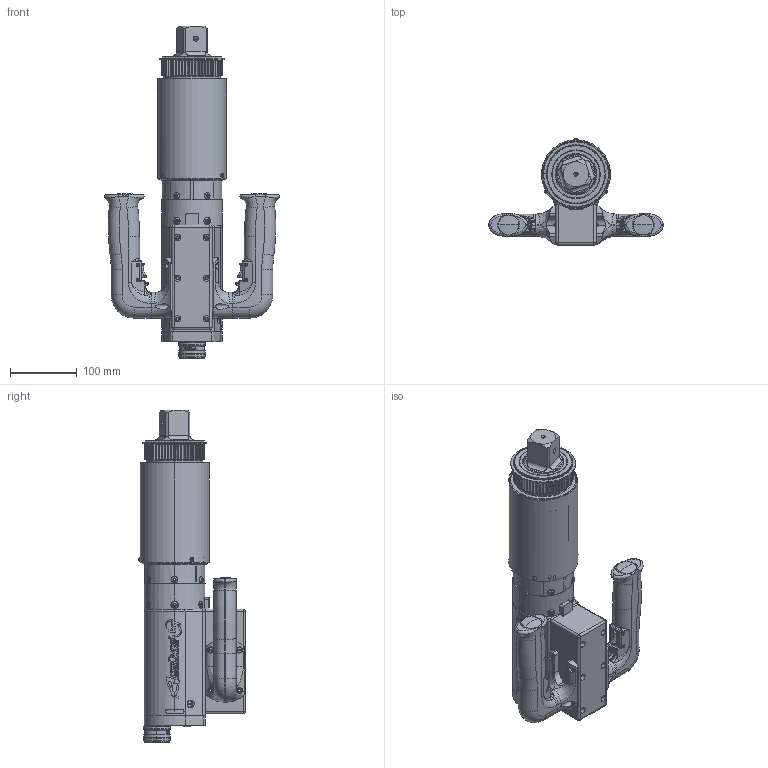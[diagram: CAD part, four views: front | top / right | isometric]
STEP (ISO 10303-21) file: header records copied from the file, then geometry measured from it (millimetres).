
FILE_DESCRIPTION (( 'STEP AP214' ), '1' );
FILE_NAME ('AEJ4B898100BDL.STEP', '2022-07-29T22:05:34', ( '' ), ( '' ), 'SwSTEP 2.0', 'SolidWorks 2022', '' );
FILE_SCHEMA (( 'AUTOMOTIVE_DESIGN' ));
Length unit declared in the file: inch
Products named in the file (1): AEJ4B898100BDL
Bounding box: 262.68 x 159.79 x 499.3 mm (x, y, z)
Surface area: 411448.3 mm2 (no closed solid volume)
Topology: 0 solids, 124 shells, 1646 faces, 5914 edges, 4139 vertices
Faces by surface type: cylinder 617, plane 372, bspline 270, cone 200, torus 171, sphere 16
Entity records: 160973 total; most frequent: CARTESIAN_POINT 93558, ORIENTED_EDGE 9060, DIRECTION 8973, EDGE_CURVE 5906, VERTEX_POINT 4139, AXIS2_PLACEMENT_3D 3562, CIRCLE 2185, VECTOR 1849
